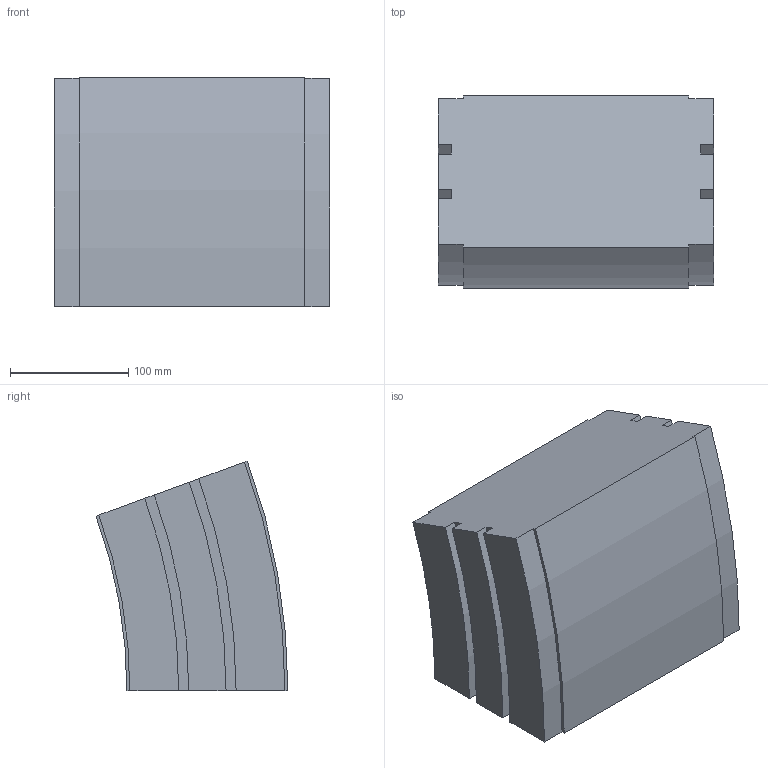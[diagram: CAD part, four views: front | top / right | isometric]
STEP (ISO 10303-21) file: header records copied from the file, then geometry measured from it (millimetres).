
FILE_DESCRIPTION (( 'STEP AP214' ), '1' );
FILE_NAME ('02.150V20.230.N FS-230-MTC-150 Bocht verticaal 20°.STEP', '2013-03-29T13:02:53', ( 'Gebruiker' ), ( '' ), 'SwSTEP 2.0', 'SolidWorks 2012', '' );
FILE_SCHEMA (( 'AUTOMOTIVE_DESIGN' ));
Length unit declared in the file: millimetre
Products named in the file (1): 02.150V20.230.N FS-230-MTC-150 Bocht verticaal 20°
Bounding box: 232.5 x 162.05 x 194.27 mm (x, y, z)
Volume: 5416803.9 mm3; surface area: 206061.7 mm2
Topology: 1 solids, 1 shells, 30 faces, 84 edges, 56 vertices
Faces by surface type: plane 16, cylinder 14
Entity records: 1010 total; most frequent: DIRECTION 174, CARTESIAN_POINT 171, ORIENTED_EDGE 168, EDGE_CURVE 84, AXIS2_PLACEMENT_3D 59, VECTOR 56, LINE 56, VERTEX_POINT 56
